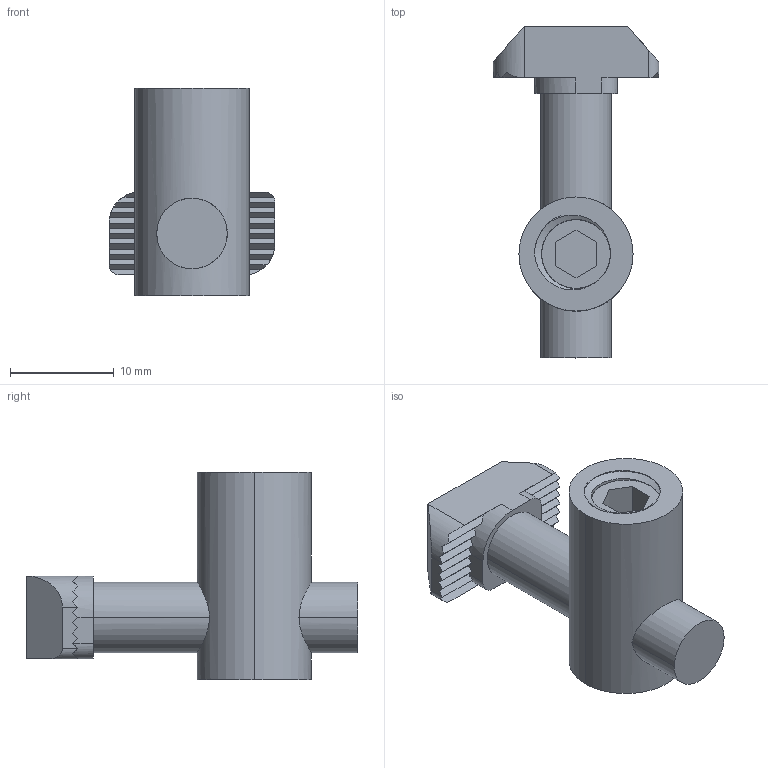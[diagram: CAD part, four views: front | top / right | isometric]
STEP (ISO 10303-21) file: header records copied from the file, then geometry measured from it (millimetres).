
FILE_DESCRIPTION (( 'STEP AP214' ), '1' );
FILE_NAME ('8-5-90.STEP', '2019-01-13T10:41:44', ( '' ), ( '' ), 'SwSTEP 2.0', 'SolidWorks 2018', '' );
FILE_SCHEMA (( 'AUTOMOTIVE_DESIGN' ));
Length unit declared in the file: millimetre
Products named in the file (4): Bus; Pin; socket set screw cup point_din_DIN 916 - M8 x 12-S; 8-5-90
Assembly tree (3 placements, depth 2):
  8-5-90
    Bus
    socket set screw cup point_din_DIN 916 - M8 x 12-S
    Pin
Bounding box: 16 x 32 x 20 mm (x, y, z)
Volume: 3014.1 mm3; surface area: 2986.7 mm2
Topology: 3 solids, 3 shells, 175 faces, 475 edges, 305 vertices
Faces by surface type: cylinder 57, plane 56, cone 48, bspline 14
Entity records: 11414 total; most frequent: CARTESIAN_POINT 7205, ORIENTED_EDGE 946, DIRECTION 779, EDGE_CURVE 473, VERTEX_POINT 305, AXIS2_PLACEMENT_3D 289, LINE 201, VECTOR 201
